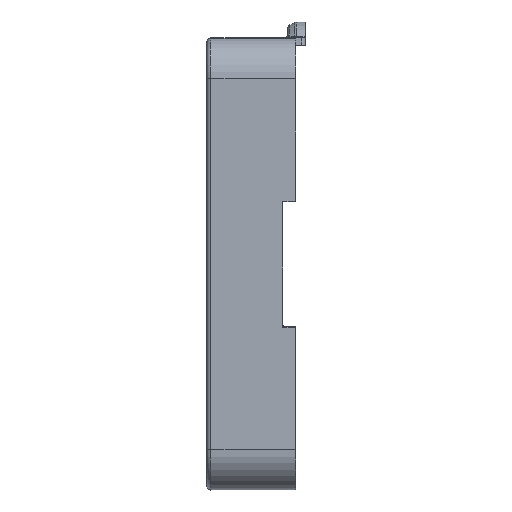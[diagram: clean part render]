
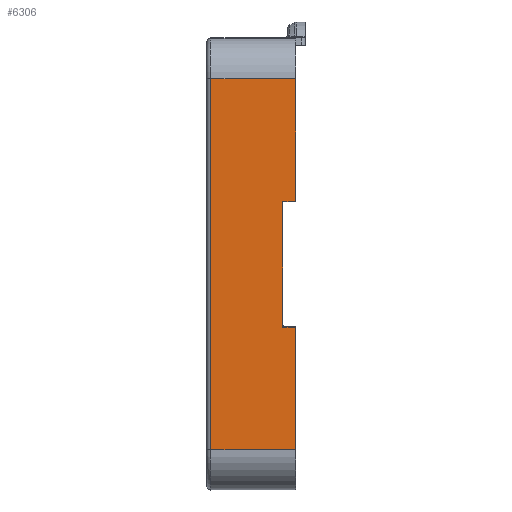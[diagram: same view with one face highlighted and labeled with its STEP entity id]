
A CAD part, left-side view. The second image highlights one B-rep face of the part: STEP entity #6306.
In plain terms, the highlighted planar face has unit normal (-1, 0, -0.001).
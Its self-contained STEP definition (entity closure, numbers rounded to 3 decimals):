
#326=DIRECTION('',(0.001,0.,-1.));
#327=VECTOR('',#326,46.);
#328=CARTESIAN_POINT('',(-45.028,10.5,15.747));
#329=LINE('',#328,#327);
#330=DIRECTION('',(0.,-1.,0.));
#331=VECTOR('',#330,10.5);
#332=CARTESIAN_POINT('',(-45.028,10.5,15.747));
#333=LINE('',#332,#331);
#334=DIRECTION('',(0.001,0.,-1.));
#335=VECTOR('',#334,15.243);
#336=CARTESIAN_POINT('',(-45.028,0.,15.747));
#337=LINE('',#336,#335);
#338=DIRECTION('',(0.,1.,0.));
#339=VECTOR('',#338,1.6);
#340=CARTESIAN_POINT('',(-45.019,0.,
0.504));
#341=LINE('',#340,#339);
#342=DIRECTION('',(-0.001,0.,1.));
#343=VECTOR('',#342,15.6);
#344=CARTESIAN_POINT('',(-45.009,1.6,-15.096));
#345=LINE('',#344,#343);
#346=DIRECTION('',(0.,1.,0.));
#347=VECTOR('',#346,1.6);
#348=CARTESIAN_POINT('',(-45.009,0.,
-15.096));
#349=LINE('',#348,#347);
#350=DIRECTION('',(0.001,0.,-1.));
#351=VECTOR('',#350,15.157);
#352=CARTESIAN_POINT('',(-45.009,0.,
-15.096));
#353=LINE('',#352,#351);
#354=DIRECTION('',(0.,-1.,0.));
#355=VECTOR('',#354,10.5);
#356=CARTESIAN_POINT('',(-45.,10.5,-30.253));
#357=LINE('',#356,#355);
#5166=CARTESIAN_POINT('',(-45.009,1.6,
-15.096));
#5167=CARTESIAN_POINT('',(-45.019,1.6,
0.504));
#5168=VERTEX_POINT('',#5166);
#5169=VERTEX_POINT('',#5167);
#5170=CARTESIAN_POINT('',(-45.009,0.,
-15.096));
#5171=VERTEX_POINT('',#5170);
#5172=CARTESIAN_POINT('',(-45.019,0.,
0.504));
#5173=VERTEX_POINT('',#5172);
#5362=CARTESIAN_POINT('',(-45.,0.,
-30.253));
#5364=VERTEX_POINT('',#5362);
#5371=CARTESIAN_POINT('',(-45.028,0.,
15.747));
#5373=VERTEX_POINT('',#5371);
#5446=CARTESIAN_POINT('',(-45.,10.5,
-30.253));
#5447=VERTEX_POINT('',#5446);
#5450=CARTESIAN_POINT('',(-45.028,10.5,15.747));
#5451=VERTEX_POINT('',#5450);
#6284=CARTESIAN_POINT('',(-45.014,5.,
-7.253));
#6285=DIRECTION('',(1.,0.,0.001));
#6286=DIRECTION('',(0.,1.,0.));
#6287=AXIS2_PLACEMENT_3D('',#6284,#6285,#6286);
#6288=PLANE('',#6287);
#6290=ORIENTED_EDGE('',*,*,#6289,.F.);
#6292=ORIENTED_EDGE('',*,*,#6291,.T.);
#6294=ORIENTED_EDGE('',*,*,#6293,.T.);
#6296=ORIENTED_EDGE('',*,*,#6295,.T.);
#6297=ORIENTED_EDGE('',*,*,#6274,.F.);
#6299=ORIENTED_EDGE('',*,*,#6298,.F.);
#6301=ORIENTED_EDGE('',*,*,#6300,.T.);
#6303=ORIENTED_EDGE('',*,*,#6302,.F.);
#6304=EDGE_LOOP('',(#6290,#6292,#6294,#6296,#6297,#6299,#6301,#6303));
#6305=FACE_OUTER_BOUND('',#6304,.F.);
#6306=ADVANCED_FACE('',(#6305),#6288,.F.);
#6274=EDGE_CURVE('',#5168,#5169,#345,.T.);
#6289=EDGE_CURVE('',#5451,#5447,#329,.T.);
#6291=EDGE_CURVE('',#5451,#5373,#333,.T.);
#6293=EDGE_CURVE('',#5373,#5173,#337,.T.);
#6295=EDGE_CURVE('',#5173,#5169,#341,.T.);
#6298=EDGE_CURVE('',#5171,#5168,#349,.T.);
#6300=EDGE_CURVE('',#5171,#5364,#353,.T.);
#6302=EDGE_CURVE('',#5447,#5364,#357,.T.);
